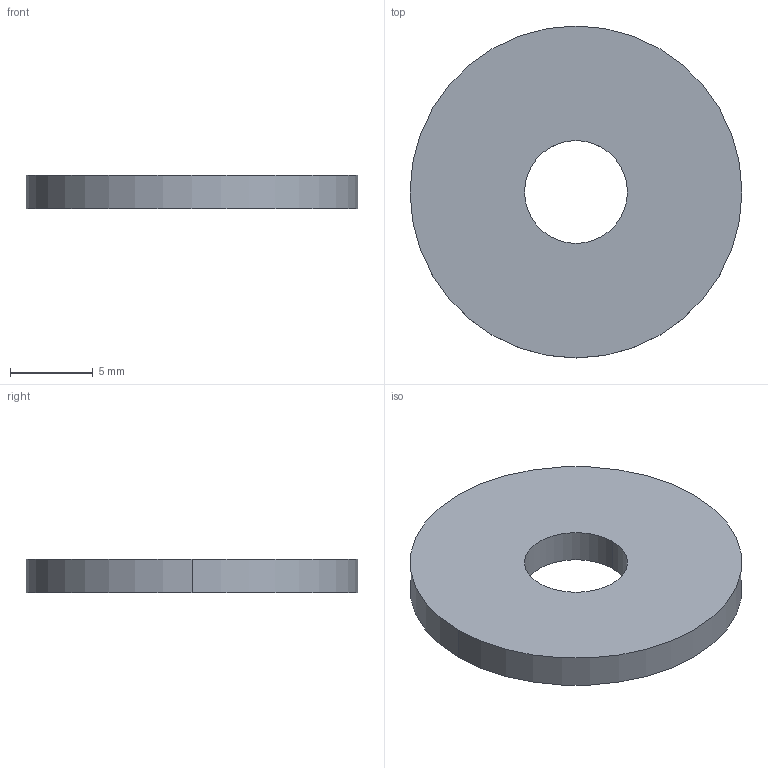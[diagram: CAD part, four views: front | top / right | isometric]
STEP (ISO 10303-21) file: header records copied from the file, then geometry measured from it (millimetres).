
FILE_DESCRIPTION((''),'2;1');
FILE_NAME('0000205725','2024-02-27T13:38:04',('Wyndorps'),(''),'CREO PARAMETRIC BY PTC INC, 2022484','CREO PARAMETRIC BY PTC INC, 2022484','');
FILE_SCHEMA(('CONFIG_CONTROL_DESIGN'));
Length unit declared in the file: millimetre
Products named in the file (1): 0000205725
Bounding box: 20 x 20 x 2 mm (x, y, z)
Volume: 567.9 mm3; surface area: 732.6 mm2
Topology: 1 solids, 1 shells, 6 faces, 12 edges, 8 vertices
Faces by surface type: cylinder 4, plane 2
Entity records: 206 total; most frequent: DIRECTION 32, CARTESIAN_POINT 26, ORIENTED_EDGE 24, AXIS2_PLACEMENT_3D 14, EDGE_CURVE 12, VERTEX_POINT 8, EDGE_LOOP 8, CIRCLE 8
